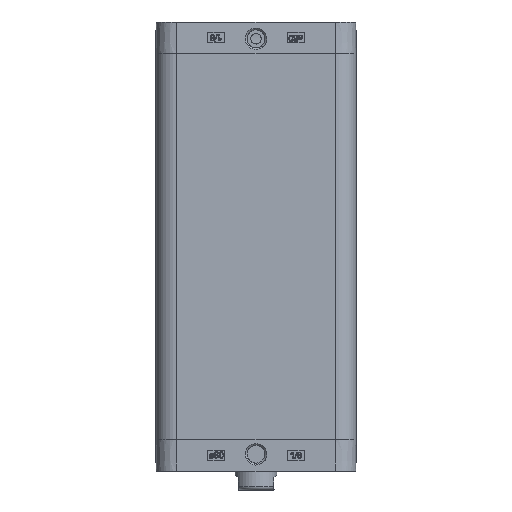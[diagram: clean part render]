
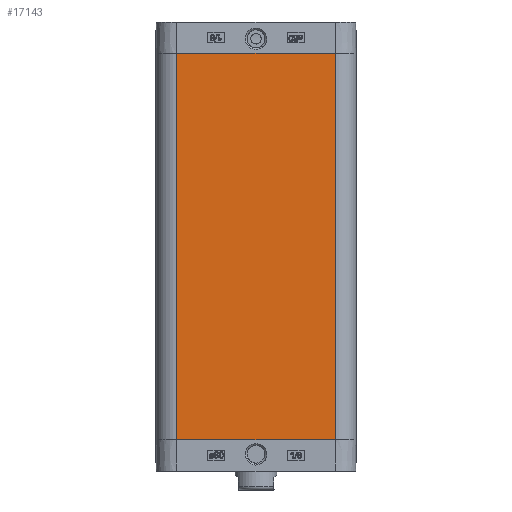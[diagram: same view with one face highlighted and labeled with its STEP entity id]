
A CAD part, left-side view. The second image highlights one B-rep face of the part: STEP entity #17143.
In plain terms, the highlighted planar face has unit normal (-1, 0, 0).
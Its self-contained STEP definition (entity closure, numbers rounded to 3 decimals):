
#1009=PLANE('',#18142);
#1917=LINE('',#26685,#2985);
#1918=LINE('',#26687,#2986);
#1919=LINE('',#26689,#2987);
#1920=LINE('',#26691,#2988);
#2985=VECTOR('',#20961,1000.);
#2986=VECTOR('',#20964,1000.);
#2987=VECTOR('',#20965,1000.);
#2988=VECTOR('',#20966,1000.);
#6166=ORIENTED_EDGE('',*,*,#8321,.T.);
#6167=ORIENTED_EDGE('',*,*,#8320,.F.);
#6168=ORIENTED_EDGE('',*,*,#8322,.F.);
#6169=ORIENTED_EDGE('',*,*,#8323,.T.);
#8320=EDGE_CURVE('',#9692,#9689,#1917,.T.);
#8321=EDGE_CURVE('',#9693,#9689,#1918,.T.);
#8322=EDGE_CURVE('',#9694,#9692,#1919,.T.);
#8323=EDGE_CURVE('',#9694,#9693,#1920,.T.);
#9689=VERTEX_POINT('',#26679);
#9692=VERTEX_POINT('',#26684);
#9693=VERTEX_POINT('',#26688);
#9694=VERTEX_POINT('',#26690);
#11129=EDGE_LOOP('',(#6166,#6167,#6168,#6169));
#12046=FACE_BOUND('',#11129,.T.);
#17143=ADVANCED_FACE('',(#12046),#1009,.T.);
#18142=AXIS2_PLACEMENT_3D('',#26686,#20962,#20963);
#20961=DIRECTION('',(0.,0.,1.));
#20962=DIRECTION('',(-1.,0.,0.));
#20963=DIRECTION('',(0.,0.,1.));
#20964=DIRECTION('',(0.,1.,0.));
#20965=DIRECTION('',(0.,1.,0.));
#20966=DIRECTION('',(0.,0.,1.));
#26679=CARTESIAN_POINT('',(-47.75,37.75,29.));
#26684=CARTESIAN_POINT('',(-47.75,37.75,-155.));
#26685=CARTESIAN_POINT('',(-47.75,37.75,0.));
#26686=CARTESIAN_POINT('',(-47.75,-37.75,0.));
#26687=CARTESIAN_POINT('',(-47.75,-37.75,29.));
#26688=CARTESIAN_POINT('',(-47.75,-37.75,29.));
#26689=CARTESIAN_POINT('',(-47.75,-37.75,-155.));
#26690=CARTESIAN_POINT('',(-47.75,-37.75,-155.));
#26691=CARTESIAN_POINT('',(-47.75,-37.75,0.));
